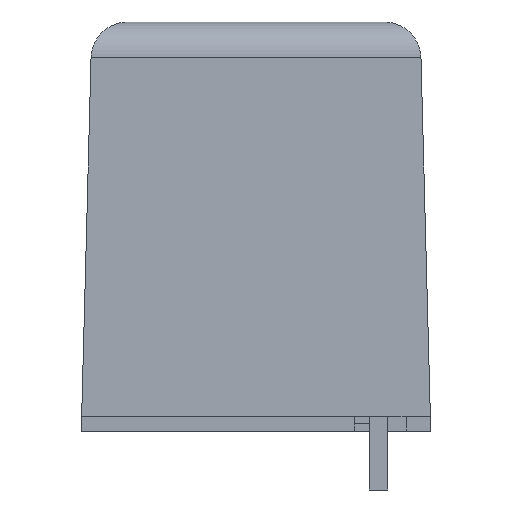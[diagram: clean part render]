
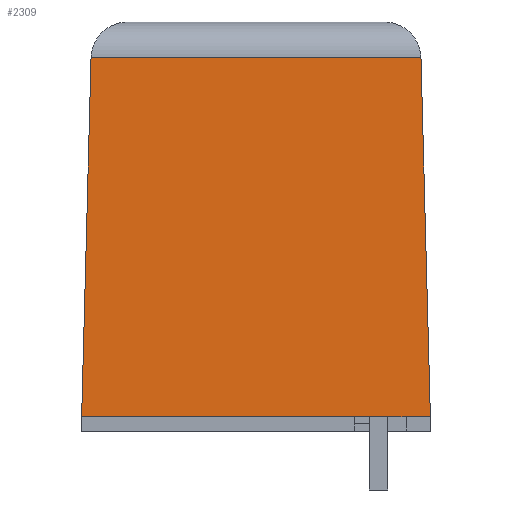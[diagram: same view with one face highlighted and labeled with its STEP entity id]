
A CAD part, front view. The second image highlights one B-rep face of the part: STEP entity #2309.
In plain terms, the highlighted planar face has unit normal (0, -1, 0.026).
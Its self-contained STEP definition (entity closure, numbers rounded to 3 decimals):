
#1323=DIRECTION('',(0.026,-0.026,-0.999));
#1324=VECTOR('',#1323,19.566);
#1325=CARTESIAN_POINT('',(-10.893,-47.159,
19.552));
#1326=LINE('',#1325,#1324);
#1331=DIRECTION('',(1.,0.,0.));
#1332=VECTOR('',#1331,1.325);
#1333=CARTESIAN_POINT('',(-11.706,-47.671,
0.));
#1334=LINE('',#1333,#1332);
#1439=DIRECTION('',(1.,0.,0.));
#1440=VECTOR('',#1439,2.794);
#1441=CARTESIAN_POINT('',(-14.5,-47.671,0.));
#1442=LINE('',#1441,#1440);
#1539=DIRECTION('',(-0.026,-0.026,-0.999));
#1540=VECTOR('',#1539,19.566);
#1541=CARTESIAN_POINT('',(-28.869,-47.159,
19.552));
#1542=LINE('',#1541,#1540);
#1700=DIRECTION('',(-1.,0.,0.));
#1701=VECTOR('',#1700,17.976);
#1702=CARTESIAN_POINT('',(-10.893,-47.159,
19.552));
#1703=LINE('',#1702,#1701);
#1971=DIRECTION('',(1.,0.,0.));
#1972=VECTOR('',#1971,14.881);
#1973=CARTESIAN_POINT('',(-29.381,-47.671,0.));
#1974=LINE('',#1973,#1972);
#2083=CARTESIAN_POINT('',(-10.893,-47.159,
19.552));
#2084=CARTESIAN_POINT('',(-10.381,-47.671,0.));
#2085=VERTEX_POINT('',#2083);
#2086=VERTEX_POINT('',#2084);
#2095=CARTESIAN_POINT('',(-11.706,-47.671,
0.));
#2096=VERTEX_POINT('',#2095);
#2097=CARTESIAN_POINT('',(-14.5,-47.671,0.));
#2098=VERTEX_POINT('',#2097);
#2099=CARTESIAN_POINT('',(-29.381,-47.671,0.));
#2100=VERTEX_POINT('',#2099);
#2101=CARTESIAN_POINT('',(-28.869,-47.159,
19.552));
#2102=VERTEX_POINT('',#2101);
#2291=CARTESIAN_POINT('',(-20.381,-47.671,0.));
#2292=DIRECTION('',(0.,1.,-0.026));
#2293=DIRECTION('',(0.,0.026,1.));
#2294=AXIS2_PLACEMENT_3D('',#2291,#2292,#2293);
#2295=PLANE('',#2294);
#2297=ORIENTED_EDGE('',*,*,#2296,.F.);
#2299=ORIENTED_EDGE('',*,*,#2298,.F.);
#2301=ORIENTED_EDGE('',*,*,#2300,.F.);
#2303=ORIENTED_EDGE('',*,*,#2302,.F.);
#2305=ORIENTED_EDGE('',*,*,#2304,.F.);
#2306=ORIENTED_EDGE('',*,*,#2276,.T.);
#2307=EDGE_LOOP('',(#2297,#2299,#2301,#2303,#2305,#2306));
#2308=FACE_OUTER_BOUND('',#2307,.F.);
#2276=EDGE_CURVE('',#2085,#2086,#1326,.T.);
#2296=EDGE_CURVE('',#2096,#2086,#1334,.T.);
#2298=EDGE_CURVE('',#2098,#2096,#1442,.T.);
#2300=EDGE_CURVE('',#2100,#2098,#1974,.T.);
#2302=EDGE_CURVE('',#2102,#2100,#1542,.T.);
#2304=EDGE_CURVE('',#2085,#2102,#1703,.T.);
#2309=ADVANCED_FACE('',(#2308),#2295,.F.);
